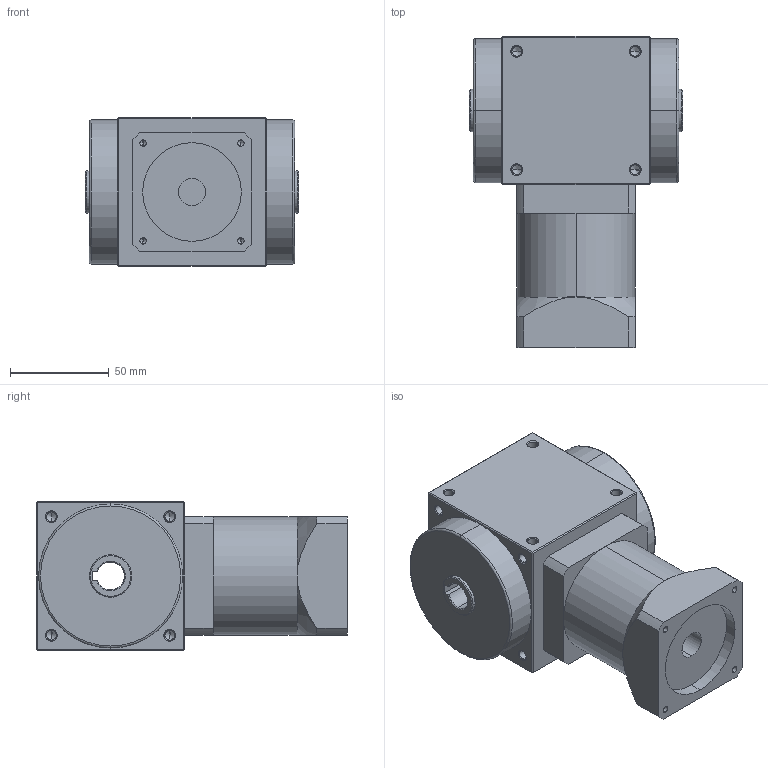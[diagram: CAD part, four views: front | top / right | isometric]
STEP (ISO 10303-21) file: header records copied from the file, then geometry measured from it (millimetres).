
FILE_DESCRIPTION (( 'STEP AP214' ), '1' );
FILE_NAME ('AT075-FH-L1-400W.STEP', '2020-03-23T10:09:54', ( 'User' ), ( 'Far123' ), 'SwSTEP 2.0', 'SolidWorks 2015', '' );
FILE_SCHEMA (( 'AUTOMOTIVE_DESIGN' ));
Length unit declared in the file: millimetre
Products named in the file (1): AT075-FH-L1-400W
Bounding box: 108 x 157.5 x 75 mm (x, y, z)
Volume: 765814.6 mm3; surface area: 69243.1 mm2
Topology: 1 solids, 1 shells, 267 faces, 670 edges, 364 vertices
Faces by surface type: cylinder 113, cone 102, plane 48, torus 4
Entity records: 8594 total; most frequent: CARTESIAN_POINT 1706, ORIENTED_EDGE 1244, DIRECTION 1242, EDGE_CURVE 622, AXIS2_PLACEMENT_3D 476, VERTEX_POINT 364, EDGE_LOOP 300, LINE 290
